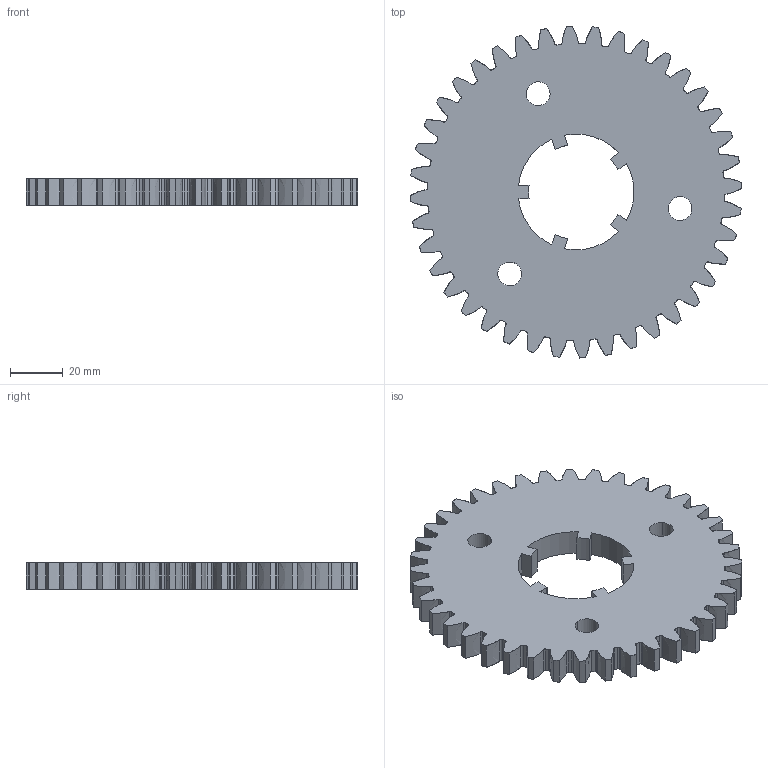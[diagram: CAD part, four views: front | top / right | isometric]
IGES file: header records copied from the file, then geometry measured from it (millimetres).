
Start section: START RECORD GO HERE.
Global section: file name: EngrenageDroit3PA9550.igs; native system: IBM CATIA IGES - CATIA Version 5 Release 18 ; preprocessor: CATIA Version 5 Release 18 ; author: Propriétaire; organization: FUJITSU-79916BB; date: 20090111.191112; units: millimetre
Bounding box: 125.97 x 125.97 x 10 mm (x, y, z)
Surface area: 29352.3 mm2 (no closed solid volume)
Topology: 0 solids, 0 shells, 309 faces, 1842 edges, 1842 vertices
Faces by surface type: revolution 213, bspline 80, plane 16
